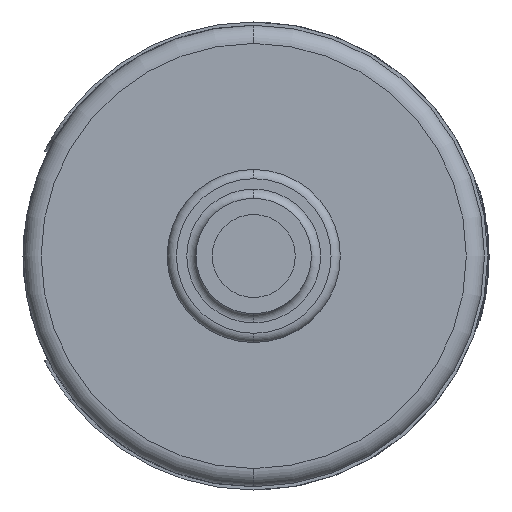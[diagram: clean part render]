
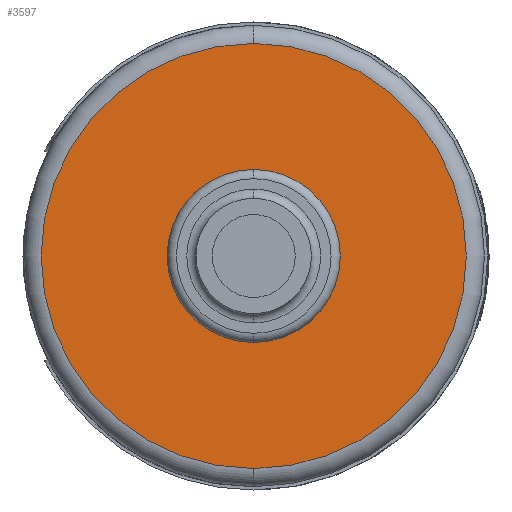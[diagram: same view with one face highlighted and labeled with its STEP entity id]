
A CAD part, front view. The second image highlights one B-rep face of the part: STEP entity #3597.
In plain terms, the highlighted planar face has unit normal (0, -1, 0).
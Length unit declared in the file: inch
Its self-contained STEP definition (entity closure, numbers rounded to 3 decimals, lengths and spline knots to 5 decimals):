
#91 = CIRCLE ( 'NONE', #6863, 0.1875 ) ;
#409 = PLANE ( 'NONE',  #1476 ) ;
#781 = AXIS2_PLACEMENT_3D ( 'NONE', #7418, #9141, #1493 ) ;
#977 = CARTESIAN_POINT ( 'NONE',  ( 0., 0.15748, -0.1875 ) ) ;
#1138 = VERTEX_POINT ( 'NONE', #6267 ) ;
#1394 = VERTEX_POINT ( 'NONE', #9226 ) ;
#1476 = AXIS2_PLACEMENT_3D ( 'NONE', #7223, #10632, #6381 ) ;
#1493 = DIRECTION ( 'NONE',  ( 0., 0., -1. ) ) ;
#1494 = CIRCLE ( 'NONE', #781, 0.46063 ) ;
#2210 = EDGE_LOOP ( 'NONE', ( #6280, #8364 ) ) ;
#2244 = DIRECTION ( 'NONE',  ( 0., -1., 0. ) ) ;
#2677 = EDGE_LOOP ( 'NONE', ( #8278, #3655 ) ) ;
#2935 = EDGE_CURVE ( 'NONE', #4604, #1394, #91, .T. ) ;
#3597 = ADVANCED_FACE ( 'NONE', ( #4691, #8061 ), #409, .T. ) ;
#3610 = EDGE_CURVE ( 'NONE', #4083, #1138, #4313, .T. ) ;
#3655 = ORIENTED_EDGE ( 'NONE', *, *, #6091, .T. ) ;
#4083 = VERTEX_POINT ( 'NONE', #8816 ) ;
#4313 = CIRCLE ( 'NONE', #7010, 0.46063 ) ;
#4604 = VERTEX_POINT ( 'NONE', #977 ) ;
#4691 = FACE_OUTER_BOUND ( 'NONE', #2677, .T. ) ;
#4956 = CARTESIAN_POINT ( 'NONE',  ( 0., 0.15748, 0. ) ) ;
#4975 = DIRECTION ( 'NONE',  ( 0., 0., -1. ) ) ;
#5637 = DIRECTION ( 'NONE',  ( 0., 0., -1. ) ) ;
#5801 = CIRCLE ( 'NONE', #8298, 0.1875 ) ;
#6085 = CARTESIAN_POINT ( 'NONE',  ( 0., 0.15748, 0. ) ) ;
#6091 = EDGE_CURVE ( 'NONE', #1138, #4083, #1494, .T. ) ;
#6267 = CARTESIAN_POINT ( 'NONE',  ( 0., 0.15748, 0.46063 ) ) ;
#6280 = ORIENTED_EDGE ( 'NONE', *, *, #2935, .F. ) ;
#6381 = DIRECTION ( 'NONE',  ( 0., 0., -1. ) ) ;
#6863 = AXIS2_PLACEMENT_3D ( 'NONE', #6085, #7761, #6869 ) ;
#6869 = DIRECTION ( 'NONE',  ( 0., 0., -1. ) ) ;
#7010 = AXIS2_PLACEMENT_3D ( 'NONE', #9912, #2244, #4975 ) ;
#7223 = CARTESIAN_POINT ( 'NONE',  ( 0., 0.15748, 0. ) ) ;
#7418 = CARTESIAN_POINT ( 'NONE',  ( 0., 0.15748, 0. ) ) ;
#7761 = DIRECTION ( 'NONE',  ( 0., -1., 0. ) ) ;
#8013 = EDGE_CURVE ( 'NONE', #1394, #4604, #5801, .T. ) ;
#8061 = FACE_BOUND ( 'NONE', #2210, .T. ) ;
#8278 = ORIENTED_EDGE ( 'NONE', *, *, #3610, .T. ) ;
#8298 = AXIS2_PLACEMENT_3D ( 'NONE', #4956, #8322, #5637 ) ;
#8322 = DIRECTION ( 'NONE',  ( 0., -1., 0. ) ) ;
#8364 = ORIENTED_EDGE ( 'NONE', *, *, #8013, .F. ) ;
#8816 = CARTESIAN_POINT ( 'NONE',  ( 0., 0.15748, -0.46063 ) ) ;
#9141 = DIRECTION ( 'NONE',  ( 0., -1., 0. ) ) ;
#9226 = CARTESIAN_POINT ( 'NONE',  ( 0., 0.15748, 0.1875 ) ) ;
#9912 = CARTESIAN_POINT ( 'NONE',  ( 0., 0.15748, 0. ) ) ;
#10632 = DIRECTION ( 'NONE',  ( 0., -1., 0. ) ) ;
